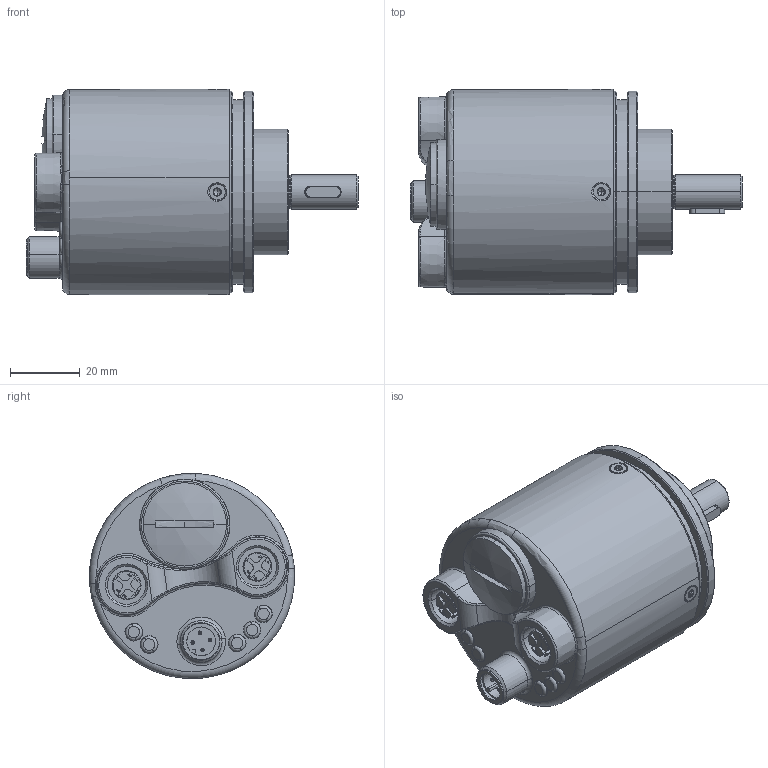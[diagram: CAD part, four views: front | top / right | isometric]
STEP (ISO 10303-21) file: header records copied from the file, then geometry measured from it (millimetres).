
FILE_DESCRIPTION (( 'STEP AP214' ), '1' );
FILE_NAME ('A3411_4_R8.S5858FSx.2XAN.A222.STEP', '2019-11-19T12:29:47', ( '' ), ( '' ), 'SwSTEP 2.0', 'SolidWorks 2019', '' );
FILE_SCHEMA (( 'AUTOMOTIVE_DESIGN' ));
Length unit declared in the file: millimetre
Products named in the file (1): A3411_4_R8.S5858FSx.2XAN.A222
Bounding box: 95.5 x 59 x 59 mm (x, y, z)
Volume: 164712.9 mm3; surface area: 25514.5 mm2
Topology: 7 solids, 16 shells, 757 faces, 1833 edges, 1147 vertices
Faces by surface type: cylinder 254, plane 191, cone 146, torus 91, bspline 73, sphere 2
Entity records: 35145 total; most frequent: CARTESIAN_POINT 9361, ORIENTED_EDGE 3642, DIRECTION 3609, EDGE_CURVE 1821, AXIS2_PLACEMENT_3D 1437, VERTEX_POINT 1147, EDGE_LOOP 826, UNCERTAINTY_MEASURE_WITH_UNIT 766
